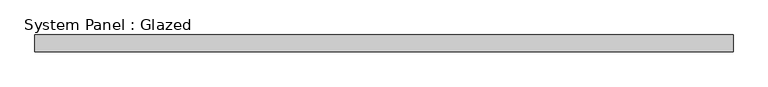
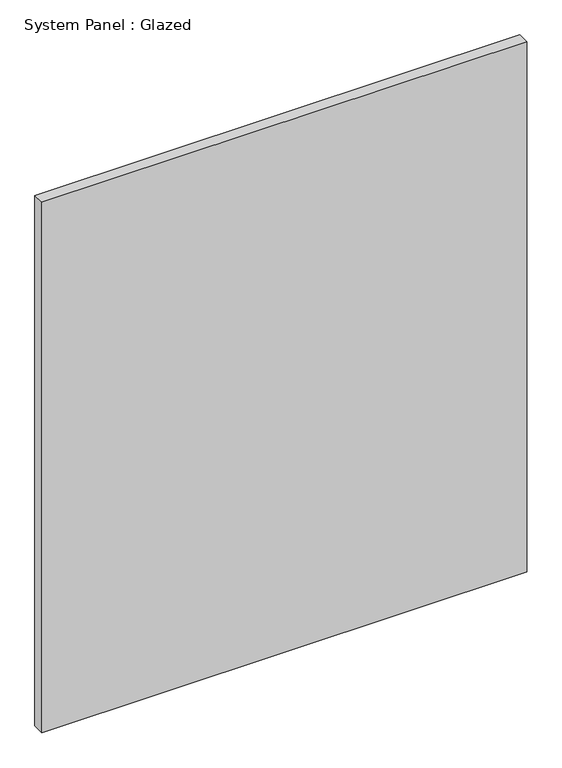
"""IFC4 building model written with IfcOpenShell, lengths in millimetres: plate geometry, System Panel : Glazed."""

from ifc_helpers import new_model, si_unit, origin, origin_with_axes, place, context, project, spatial, polyline, outline, extrude, source, transform, mapped, element, save


def system_panel_glazed_17731a82(model_context):
    return source(origin(), model_context, "Body", "SweptSolid", [
        extrude(outline(polyline([(517.5, -12.5), (-517.5, -12.5), (-517.5, 12.5), (517.5, 12.5), (517.5, -12.5)])), origin_with_axes(), (0.0, 0.0, 1.0), 1197.5),
    ])


if __name__ == "__main__":
    model = new_model("IFC4")
    model_context = context("Model", 3, world=origin())
    ifc_project = project(units=[si_unit("LENGTHUNIT", "METRE", prefix="MILLI")], contexts=[model_context])
    site = spatial("IfcSite", under=ifc_project)
    building = spatial("IfcBuilding", under=site)
    placement = place(None, origin())
    system_panel_glazed_shape = system_panel_glazed_17731a82(model_context)
    element("IfcPlate", 1, ObjectType="System Panel : Glazed", at=placement, inside=building, context=model_context, shape_type="MappedRepresentation", body=[
        mapped(system_panel_glazed_shape, transform((0.0, 0.0, 0.0), x_axis=(1.0, 0.0, 0.0), y_axis=(0.0, 1.0, 0.0), z_axis=(0.0, 0.0, 1.0))),
    ])
    save(model, "model.ifc")
